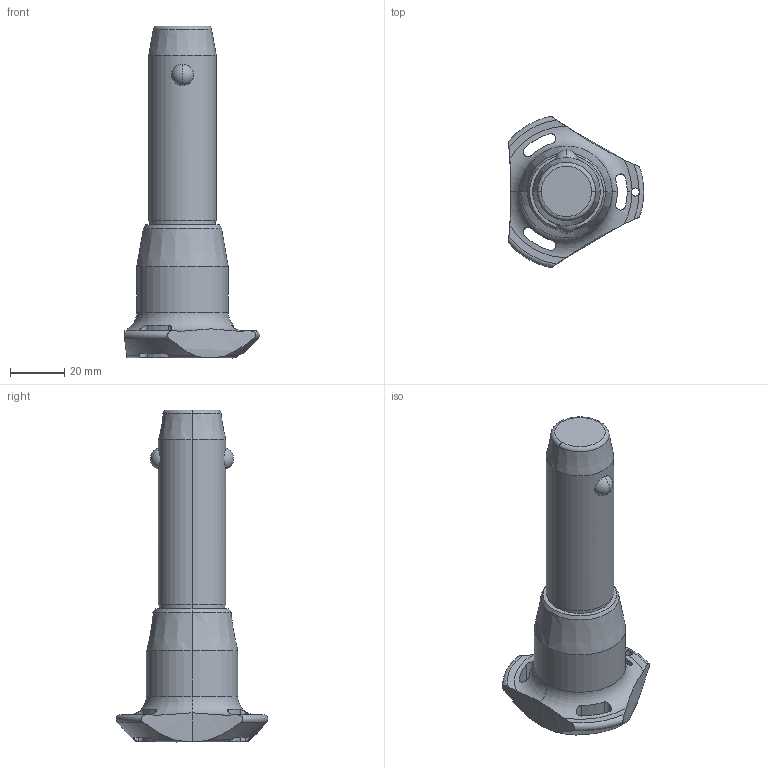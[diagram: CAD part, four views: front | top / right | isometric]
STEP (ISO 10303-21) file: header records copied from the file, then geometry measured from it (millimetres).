
FILE_DESCRIPTION (( 'STEP AP203' ), '1' );
FILE_NAME ('QR1734.M25-050-S.step', '2025-11-12T14:44:02', ( '' ), ( '' ), 'SwSTEP 2.0', 'SolidWorks 2019', '' );
FILE_SCHEMA (( 'CONFIG_CONTROL_DESIGN' ));
Length unit declared in the file: millimetre
Products named in the file (1): QR1734.M25-050-S
Bounding box: 50.04 x 56.02 x 122.7 mm (x, y, z)
Volume: 82997.2 mm3; surface area: 15376.2 mm2
Topology: 1 solids, 1 shells, 65 faces, 176 edges, 111 vertices
Faces by surface type: cylinder 30, cone 14, torus 11, sphere 6, plane 4
Entity records: 2858 total; most frequent: CARTESIAN_POINT 1179, ORIENTED_EDGE 352, DIRECTION 329, EDGE_CURVE 176, AXIS2_PLACEMENT_3D 147, VERTEX_POINT 111, CIRCLE 81, EDGE_LOOP 71
